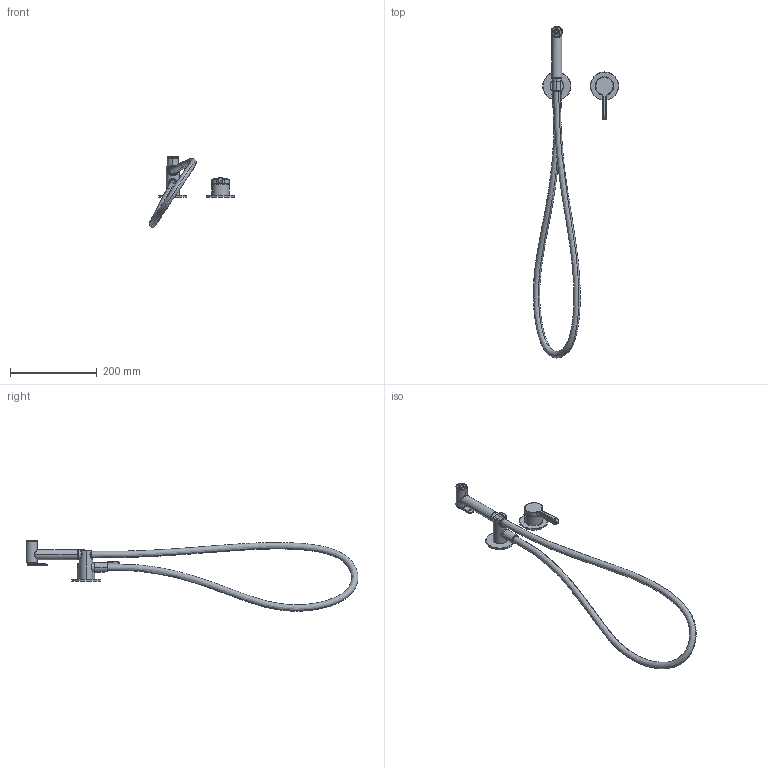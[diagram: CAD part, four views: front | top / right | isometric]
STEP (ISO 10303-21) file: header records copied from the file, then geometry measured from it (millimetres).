
FILE_DESCRIPTION((''),'2;1');
FILE_NAME('DIS_3D_L957B_M111A_ASM','2025-07-18T08:40:39',('ufftecnico'),(''),'CREO PARAMETRIC BY PTC INC, 2025010','CREO PARAMETRIC BY PTC INC, 2025010','');
FILE_SCHEMA(('AUTOMOTIVE_DESIGN { 1 0 10303 214 1 1 1 1 }'));
Length unit declared in the file: millimetre
Products named in the file (3): 58000L957B000000_SW0002; DC00000140000000; DIS_3D_L957B_M111A_ASM
Assembly tree (2 placements, depth 2):
  DIS_3D_L957B_M111A_ASM
    58000L957B000000_SW0002
    DC00000140000000
Bounding box: 196.56 x 766.03 x 162.49 mm (x, y, z)
Volume: 426183.9 mm3; surface area: 117204.1 mm2
Topology: 3 solids, 6 shells, 397 faces, 946 edges, 610 vertices
Faces by surface type: cylinder 178, plane 110, bspline 58, torus 34, cone 15, extrusion 2
Entity records: 34492 total; most frequent: CARTESIAN_POINT 20312, DIRECTION 2105, ORIENTED_EDGE 1824, EDGE_CURVE 912, AXIS2_PLACEMENT_3D 876, PRESENTATION_STYLE_ASSIGNMENT 725, STYLED_ITEM 711, VERTEX_POINT 578
